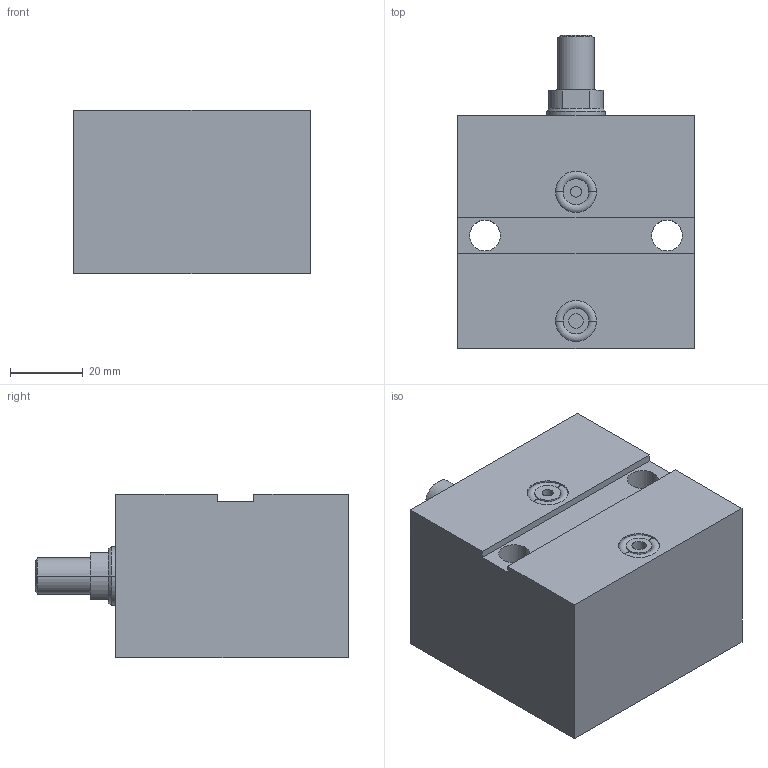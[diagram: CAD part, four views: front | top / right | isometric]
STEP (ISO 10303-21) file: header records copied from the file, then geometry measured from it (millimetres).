
FILE_DESCRIPTION (( 'STEP AP203' ), '1' );
FILE_NAME ('GERMA_Blockzylinder_604-025-020-A.STEP', '2016-01-08T18:13:01', ( '' ), ( '' ), 'SwSTEP 2.0', 'SolidWorks 2015', '' );
FILE_SCHEMA (( 'CONFIG_CONTROL_DESIGN' ));
Length unit declared in the file: millimetre
Products named in the file (3): Kolben 60x-025_Kolben DU.25-Hub20-AG; GERMA_Blockzylinder_604-025-020-A; GH-600-025_GH-604-025-020
Assembly tree (2 placements, depth 2):
  GERMA_Blockzylinder_604-025-020-A
    GH-600-025_GH-604-025-020
    Kolben 60x-025_Kolben DU.25-Hub20-AG
Bounding box: 65 x 86 x 45 mm (x, y, z)
Volume: 177415.6 mm3; surface area: 31547.3 mm2
Topology: 2 solids, 2 shells, 77 faces, 166 edges, 101 vertices
Faces by surface type: cylinder 35, plane 26, cone 12, torus 4
Entity records: 2386 total; most frequent: DIRECTION 411, CARTESIAN_POINT 345, ORIENTED_EDGE 324, AXIS2_PLACEMENT_3D 167, EDGE_CURVE 162, VERTEX_POINT 101, EDGE_LOOP 93, CIRCLE 85
